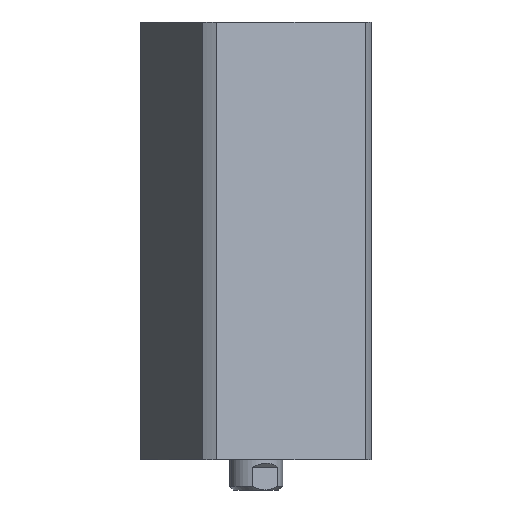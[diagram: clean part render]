
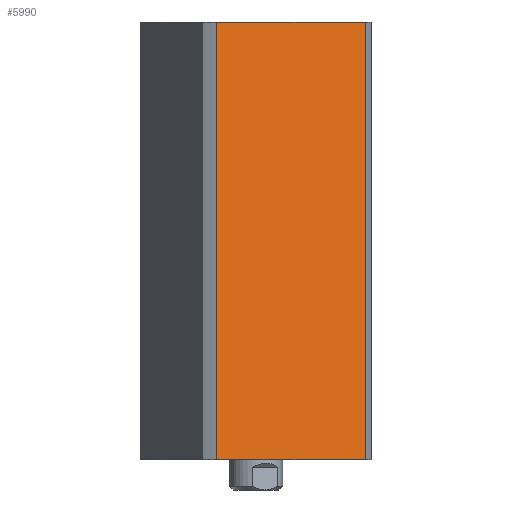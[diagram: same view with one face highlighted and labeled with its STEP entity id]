
A CAD part, left-side view. The second image highlights one B-rep face of the part: STEP entity #5990.
In plain terms, the highlighted planar face has unit normal (-0.924, -0.383, 0) as drawn and (1, 0, 0) by its records, which use the part's own axes.
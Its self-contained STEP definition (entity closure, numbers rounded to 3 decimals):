
#61 = VERTEX_POINT ( 'NONE', #1389 ) ;
#108 = EDGE_CURVE ( 'NONE', #868, #4689, #4940, .T. ) ;
#184 = CARTESIAN_POINT ( 'NONE',  ( 24., 24., 0. ) ) ;
#252 = EDGE_CURVE ( 'NONE', #7943, #4689, #6412, .T. ) ;
#551 = VECTOR ( 'NONE', #4653, 1000. ) ;
#697 = DIRECTION ( 'NONE',  ( 0., 0., 1. ) ) ;
#730 = CARTESIAN_POINT ( 'NONE',  ( 24., 21.166, 0. ) ) ;
#802 = EDGE_CURVE ( 'NONE', #61, #868, #5513, .T. ) ;
#868 = VERTEX_POINT ( 'NONE', #2152 ) ;
#1389 = CARTESIAN_POINT ( 'NONE',  ( 24., -21.166, 115. ) ) ;
#1447 = CARTESIAN_POINT ( 'NONE',  ( 24., 24., 115. ) ) ;
#1633 = AXIS2_PLACEMENT_3D ( 'NONE', #1447, #7031, #3302 ) ;
#2152 = CARTESIAN_POINT ( 'NONE',  ( 24., 21.166, 115. ) ) ;
#3289 = VECTOR ( 'NONE', #5703, 1000. ) ;
#3302 = DIRECTION ( 'NONE',  ( 0., -1., 0. ) ) ;
#3905 = ORIENTED_EDGE ( 'NONE', *, *, #108, .F. ) ;
#4247 = ORIENTED_EDGE ( 'NONE', *, *, #6723, .F. ) ;
#4283 = LINE ( 'NONE', #5045, #7406 ) ;
#4653 = DIRECTION ( 'NONE',  ( 0., 1., 0. ) ) ;
#4689 = VERTEX_POINT ( 'NONE', #730 ) ;
#4899 = CARTESIAN_POINT ( 'NONE',  ( 24., -21.166, 0. ) ) ;
#4940 = LINE ( 'NONE', #6201, #3289 ) ;
#5045 = CARTESIAN_POINT ( 'NONE',  ( 24., -21.166, -292. ) ) ;
#5513 = LINE ( 'NONE', #7161, #551 ) ;
#5653 = FACE_OUTER_BOUND ( 'NONE', #6653, .T. ) ;
#5703 = DIRECTION ( 'NONE',  ( 0., 0., -1. ) ) ;
#5739 = ORIENTED_EDGE ( 'NONE', *, *, #802, .F. ) ;
#5785 = PLANE ( 'NONE',  #1633 ) ;
#5990 = ADVANCED_FACE ( 'NONE', ( #5653 ), #5785, .F. ) ;
#6005 = VECTOR ( 'NONE', #7000, 1000. ) ;
#6170 = ORIENTED_EDGE ( 'NONE', *, *, #252, .T. ) ;
#6201 = CARTESIAN_POINT ( 'NONE',  ( 24., 21.166, -292. ) ) ;
#6412 = LINE ( 'NONE', #184, #6005 ) ;
#6653 = EDGE_LOOP ( 'NONE', ( #4247, #6170, #3905, #5739 ) ) ;
#6723 = EDGE_CURVE ( 'NONE', #7943, #61, #4283, .T. ) ;
#7000 = DIRECTION ( 'NONE',  ( 0., 1., 0. ) ) ;
#7031 = DIRECTION ( 'NONE',  ( -1., 0., 0. ) ) ;
#7161 = CARTESIAN_POINT ( 'NONE',  ( 24., 24., 115. ) ) ;
#7406 = VECTOR ( 'NONE', #697, 1000. ) ;
#7943 = VERTEX_POINT ( 'NONE', #4899 ) ;
